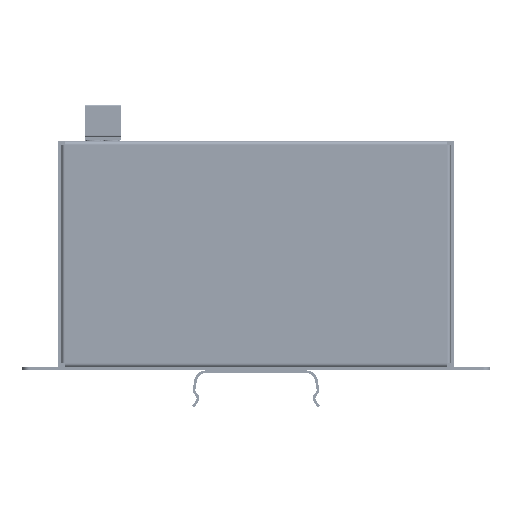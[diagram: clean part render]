
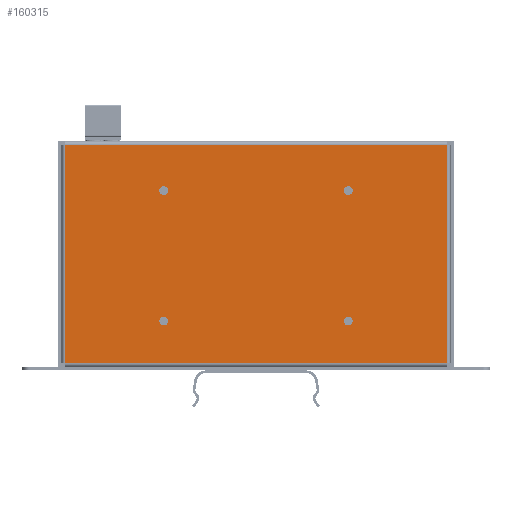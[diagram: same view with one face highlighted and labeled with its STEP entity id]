
A CAD part, front view. The second image highlights one B-rep face of the part: STEP entity #160315.
In plain terms, the highlighted planar face has unit normal (0, -1, 0).
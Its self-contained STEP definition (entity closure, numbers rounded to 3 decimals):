
#4062=FACE_BOUND('',#22964,.T.);
#4063=FACE_BOUND('',#22965,.T.);
#4064=FACE_BOUND('',#22966,.T.);
#4065=FACE_BOUND('',#22967,.T.);
#6817=CIRCLE('',#171780,1.265);
#6819=CIRCLE('',#171783,1.265);
#6821=CIRCLE('',#171786,1.265);
#6823=CIRCLE('',#171789,1.265);
#14445=FACE_OUTER_BOUND('',#22963,.T.);
#22963=EDGE_LOOP('',(#145032,#145033,#145034,#145035));
#22964=EDGE_LOOP('',(#145036));
#22965=EDGE_LOOP('',(#145037));
#22966=EDGE_LOOP('',(#145038));
#22967=EDGE_LOOP('',(#145039));
#41802=LINE('',#272047,#60937);
#41815=LINE('',#272082,#60950);
#41818=LINE('',#272095,#60953);
#41819=LINE('',#272096,#60954);
#60937=VECTOR('',#212825,10.);
#60950=VECTOR('',#212868,10.);
#60953=VECTOR('',#212887,10.);
#60954=VECTOR('',#212888,10.);
#76177=VERTEX_POINT('',#271768);
#76179=VERTEX_POINT('',#271774);
#76181=VERTEX_POINT('',#271780);
#76183=VERTEX_POINT('',#271786);
#76242=VERTEX_POINT('',#272044);
#76243=VERTEX_POINT('',#272046);
#76250=VERTEX_POINT('',#272081);
#76252=VERTEX_POINT('',#272094);
#99128=EDGE_CURVE('',#76177,#76177,#6817,.T.);
#99131=EDGE_CURVE('',#76179,#76179,#6819,.T.);
#99134=EDGE_CURVE('',#76181,#76181,#6821,.T.);
#99137=EDGE_CURVE('',#76183,#76183,#6823,.T.);
#99266=EDGE_CURVE('',#76243,#76242,#41802,.T.);
#99284=EDGE_CURVE('',#76250,#76243,#41815,.T.);
#99291=EDGE_CURVE('',#76242,#76252,#41818,.T.);
#99292=EDGE_CURVE('',#76252,#76250,#41819,.T.);
#145032=ORIENTED_EDGE('',*,*,#99266,.T.);
#145033=ORIENTED_EDGE('',*,*,#99291,.T.);
#145034=ORIENTED_EDGE('',*,*,#99292,.T.);
#145035=ORIENTED_EDGE('',*,*,#99284,.T.);
#145036=ORIENTED_EDGE('',*,*,#99128,.T.);
#145037=ORIENTED_EDGE('',*,*,#99131,.T.);
#145038=ORIENTED_EDGE('',*,*,#99134,.T.);
#145039=ORIENTED_EDGE('',*,*,#99137,.T.);
#152348=PLANE('',#171902);
#160315=ADVANCED_FACE('',(#14445,#4062,#4063,#4064,#4065),#152348,.T.);
#171780=AXIS2_PLACEMENT_3D('',#271769,#212513,#212514);
#171783=AXIS2_PLACEMENT_3D('',#271775,#212520,#212521);
#171786=AXIS2_PLACEMENT_3D('',#271781,#212527,#212528);
#171789=AXIS2_PLACEMENT_3D('',#271787,#212534,#212535);
#171902=AXIS2_PLACEMENT_3D('',#272093,#212885,#212886);
#212513=DIRECTION('center_axis',(0.,1.,0.));
#212514=DIRECTION('ref_axis',(0.,0.,-1.));
#212520=DIRECTION('center_axis',(0.,1.,0.));
#212521=DIRECTION('ref_axis',(0.,0.,-1.));
#212527=DIRECTION('center_axis',(0.,1.,0.));
#212528=DIRECTION('ref_axis',(0.,0.,-1.));
#212534=DIRECTION('center_axis',(0.,1.,0.));
#212535=DIRECTION('ref_axis',(0.,0.,-1.));
#212825=DIRECTION('',(1.,0.,0.));
#212868=DIRECTION('',(0.,0.,-1.));
#212885=DIRECTION('center_axis',(0.,-1.,0.));
#212886=DIRECTION('ref_axis',(1.,0.,0.));
#212887=DIRECTION('',(0.,0.,1.));
#212888=DIRECTION('',(-1.,0.,0.));
#271768=CARTESIAN_POINT('',(76.175,-8.57,-45.251));
#271769=CARTESIAN_POINT('Origin',(76.175,-8.57,-46.515));
#271774=CARTESIAN_POINT('',(23.825,-8.57,-8.251));
#271775=CARTESIAN_POINT('Origin',(23.825,-8.57,-9.515));
#271780=CARTESIAN_POINT('',(76.175,-8.57,-8.251));
#271781=CARTESIAN_POINT('Origin',(76.175,-8.57,-9.515));
#271786=CARTESIAN_POINT('',(23.825,-8.57,-45.251));
#271787=CARTESIAN_POINT('Origin',(23.825,-8.57,-46.515));
#272044=CARTESIAN_POINT('',(104.165,-8.57,-58.505));
#272046=CARTESIAN_POINT('',(-4.165,-8.57,-58.505));
#272047=CARTESIAN_POINT('',(77.083,-8.57,-58.505));
#272081=CARTESIAN_POINT('',(-4.165,-8.57,3.475));
#272082=CARTESIAN_POINT('',(-4.165,-8.57,-43.515));
#272093=CARTESIAN_POINT('Origin',(50.,-8.57,-27.515));
#272094=CARTESIAN_POINT('',(104.165,-8.57,3.475));
#272095=CARTESIAN_POINT('',(104.165,-8.57,-12.02));
#272096=CARTESIAN_POINT('',(22.413,-8.57,3.475));
